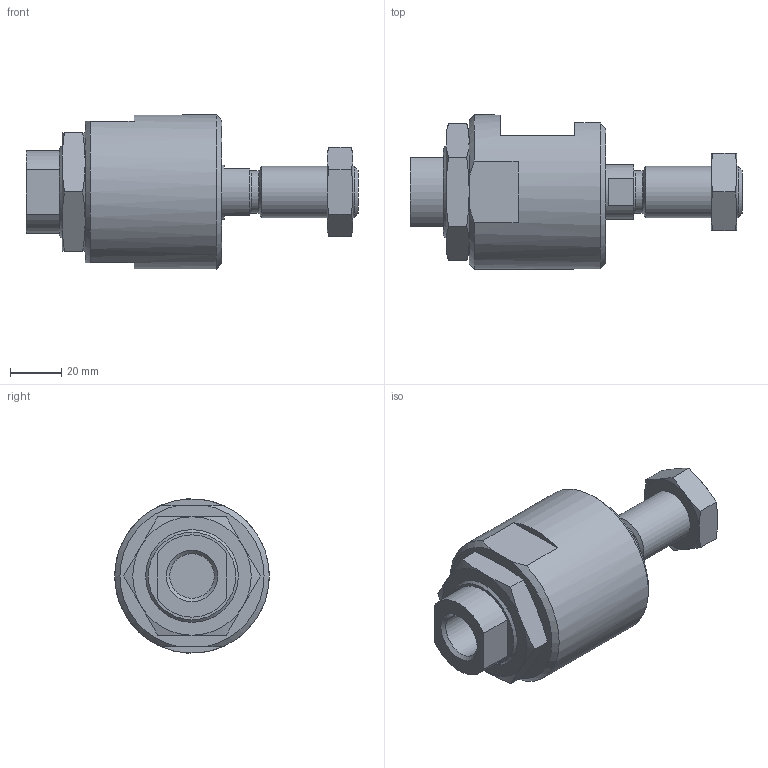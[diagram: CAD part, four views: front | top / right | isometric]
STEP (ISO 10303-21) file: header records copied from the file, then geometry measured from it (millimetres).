
FILE_DESCRIPTION( ( 'STEP AP203' ), '1' );
FILE_NAME( 'C:/Temp/Ganter_Step_05_03_2020/data/3_6/gn240_2/Rapid plug-in coupling GN 240.2-M20 (0).stp', '2020-03-12T14:08:26', ( 'License CC BY-ND 4.0' ), ( 'CADENAS' ), ' ', 'PARTsolutions', ' ' );
FILE_SCHEMA( ( 'CONFIG_CONTROL_DESIGN' ) );
Length unit declared in the file: millimetre
Products named in the file (4): Rapid plug-in coupling GN 240.2-M20 (0); _Rapid plug-in coupling GN 240.2-M20 (0)-1; _Rapid plug-in coupling GN 240.2-M20 (0)-5; _Rapid plug-in coupling GN 240.2-M20 (0)-4
Assembly tree (3 placements, depth 2):
  Rapid plug-in coupling GN 240.2-M20 (0)
    _Rapid plug-in coupling GN 240.2-M20 (0)-1
    _Rapid plug-in coupling GN 240.2-M20 (0)-5
    _Rapid plug-in coupling GN 240.2-M20 (0)-4
Bounding box: 129 x 60 x 59.86 mm (x, y, z)
Volume: 155206.8 mm3; surface area: 36649 mm2
Topology: 3 solids, 3 shells, 92 faces, 201 edges, 123 vertices
Faces by surface type: plane 42, cone 35, cylinder 12, torus 2, sphere 1
Full cylindrical faces by diameter (mm): 16.4 x1, 17.294 x2, 20 x1, 21 x1, 37.5 x2, 60 x1
Entity records: 2671 total; most frequent: CARTESIAN_POINT 657, DIRECTION 390, ORIENTED_EDGE 358, EDGE_CURVE 179, AXIS2_PLACEMENT_3D 169, EDGE_LOOP 123, VERTEX_POINT 120, FACE_OUTER_BOUND 103
